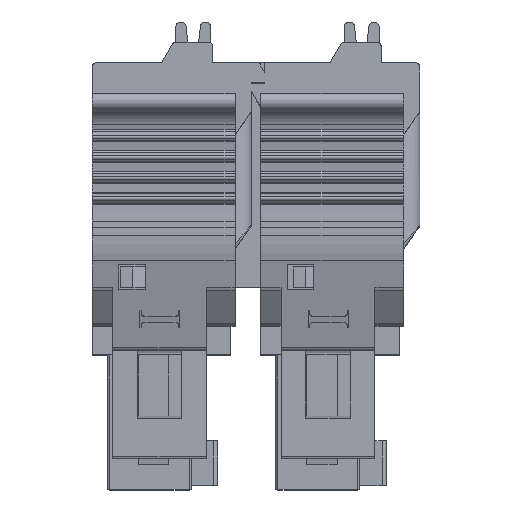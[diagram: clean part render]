
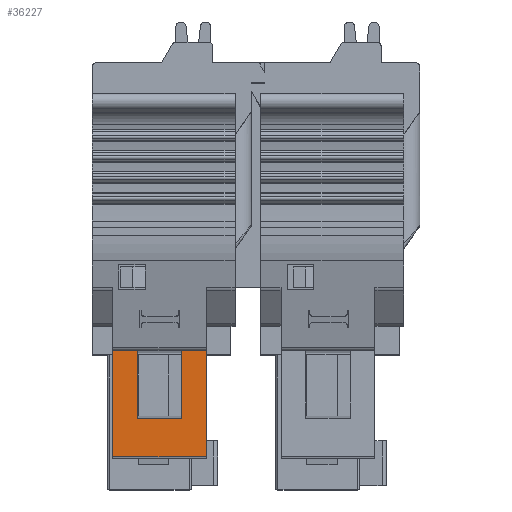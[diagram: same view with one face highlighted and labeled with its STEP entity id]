
A CAD part, top view. The second image highlights one B-rep face of the part: STEP entity #36227.
In plain terms, the highlighted planar face has unit normal (0, 0, 1).
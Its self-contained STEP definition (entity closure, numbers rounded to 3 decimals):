
#9047=DIRECTION('',(0.,-1.,0.));
#9048=VECTOR('',#9047,5.2);
#9049=CARTESIAN_POINT('',(-6.45,0.2,9.05));
#9050=LINE('',#9049,#9048);
#9094=DIRECTION('',(1.,0.,0.));
#9095=VECTOR('',#9094,1.2);
#9096=CARTESIAN_POINT('',(-6.45,0.2,9.05));
#9097=LINE('',#9096,#9095);
#9098=DIRECTION('',(0.,1.,0.));
#9099=VECTOR('',#9098,3.3);
#9100=CARTESIAN_POINT('',(-3.05,-3.1,9.05));
#9101=LINE('',#9100,#9099);
#9102=DIRECTION('',(1.,0.,0.));
#9103=VECTOR('',#9102,1.2);
#9104=CARTESIAN_POINT('',(-3.05,0.2,9.05));
#9105=LINE('',#9104,#9103);
#9106=DIRECTION('',(0.,-1.,0.));
#9107=VECTOR('',#9106,5.2);
#9108=CARTESIAN_POINT('',(-1.85,0.2,9.05));
#9109=LINE('',#9108,#9107);
#9114=DIRECTION('',(1.,0.,0.));
#9115=VECTOR('',#9114,4.6);
#9116=CARTESIAN_POINT('',(-6.45,-5.,9.05));
#9117=LINE('',#9116,#9115);
#9130=DIRECTION('',(0.,1.,0.));
#9131=VECTOR('',#9130,3.3);
#9132=CARTESIAN_POINT('',(-5.25,-3.1,9.05));
#9133=LINE('',#9132,#9131);
#9138=DIRECTION('',(-1.,0.,0.));
#9139=VECTOR('',#9138,2.2);
#9140=CARTESIAN_POINT('',(-3.05,-3.1,9.05));
#9141=LINE('',#9140,#9139);
#22953=CARTESIAN_POINT('',(-1.85,-5.,9.05));
#22954=VERTEX_POINT('',#22953);
#22955=CARTESIAN_POINT('',(-1.85,0.2,9.05));
#22956=VERTEX_POINT('',#22955);
#22965=CARTESIAN_POINT('',(-6.45,0.2,9.05));
#22966=VERTEX_POINT('',#22965);
#22967=CARTESIAN_POINT('',(-6.45,-5.,9.05));
#22968=VERTEX_POINT('',#22967);
#22971=CARTESIAN_POINT('',(-3.05,0.2,9.05));
#22972=VERTEX_POINT('',#22971);
#22973=CARTESIAN_POINT('',(-5.25,0.2,9.05));
#22974=VERTEX_POINT('',#22973);
#22975=CARTESIAN_POINT('',(-5.25,-3.1,9.05));
#22976=VERTEX_POINT('',#22975);
#22977=CARTESIAN_POINT('',(-3.05,-3.1,9.05));
#22978=VERTEX_POINT('',#22977);
#36208=CARTESIAN_POINT('',(-0.45,-5.1,9.05));
#36209=DIRECTION('',(0.,0.,1.));
#36210=DIRECTION('',(0.,1.,0.));
#36211=AXIS2_PLACEMENT_3D('',#36208,#36209,#36210);
#36212=PLANE('',#36211);
#36214=ORIENTED_EDGE('',*,*,#36213,.F.);
#36215=ORIENTED_EDGE('',*,*,#36164,.F.);
#36216=ORIENTED_EDGE('',*,*,#36202,.T.);
#36218=ORIENTED_EDGE('',*,*,#36217,.F.);
#36220=ORIENTED_EDGE('',*,*,#36219,.F.);
#36222=ORIENTED_EDGE('',*,*,#36221,.T.);
#36223=ORIENTED_EDGE('',*,*,#36198,.T.);
#36224=ORIENTED_EDGE('',*,*,#36115,.T.);
#36225=EDGE_LOOP('',(#36214,#36215,#36216,#36218,#36220,#36222,#36223,#36224));
#36226=FACE_OUTER_BOUND('',#36225,.F.);
#36227=ADVANCED_FACE('',(#36226),#36212,.T.);
#36115=EDGE_CURVE('',#22956,#22954,#9109,.T.);
#36164=EDGE_CURVE('',#22966,#22968,#9050,.T.);
#36198=EDGE_CURVE('',#22972,#22956,#9105,.T.);
#36202=EDGE_CURVE('',#22966,#22974,#9097,.T.);
#36213=EDGE_CURVE('',#22968,#22954,#9117,.T.);
#36217=EDGE_CURVE('',#22976,#22974,#9133,.T.);
#36219=EDGE_CURVE('',#22978,#22976,#9141,.T.);
#36221=EDGE_CURVE('',#22978,#22972,#9101,.T.);
